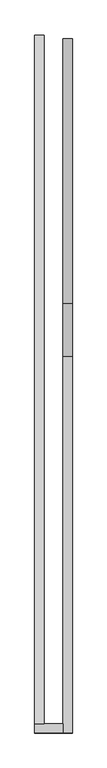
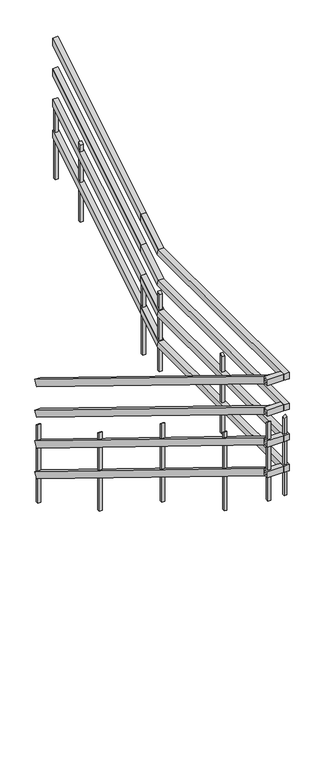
"""IFC4 building model written with IfcOpenShell, lengths in millimetres: railing geometry, RL780-금속재 난간."""

from ifc_helpers import new_model, si_unit, frame, origin, place, context, project, spatial, polyline, outline, extrude, faceted_brep, source, transform, mapped, element, save


def railing_dfcb49bc(model_context):
    return source(origin(), model_context, "Body", "SolidModel", [
        faceted_brep([(1249.8430136, 5234.2105263, 1973.6842105), (1299.8430136, 5234.2105263, 1973.6842105), (1299.8430136, 5202.7965544, 1922.5651107), (1249.8430136, 5202.7965544, 1922.5651107), (1249.8430136, 1560.0, 4231.5789474), (1249.8430136, 1528.586028, 4180.4598476), (1299.8430136, 1528.586028, 4180.4598476), (1299.8430136, 1560.0, 4231.5789474)], [[[0, 1, 2, 3]], [[4, 5, 6, 7]], [[1, 0, 4, 7]], [[2, 1, 7, 6]], [[3, 2, 6, 5]], [[0, 3, 5, 4]]]),
        faceted_brep([(1249.8430136, 1509.6, 4231.5789474), (1249.8430136, 1559.6, 4231.5789474), (1249.8430136, 1559.6, 4171.5789474), (1249.8430136, 1509.6, 4171.5789474), (1400.6430136, 1509.6, 4231.5789474), (1400.6430136, 1509.6, 4171.5789474), (1400.6430136, 1559.6, 4171.5789474), (1400.6430136, 1559.6, 4231.5789474)], [[[0, 1, 2, 3]], [[4, 5, 6, 7]], [[1, 0, 4, 7]], [[2, 1, 7, 6]], [[3, 2, 6, 5]], [[0, 3, 5, 4]]]),
        faceted_brep([(1450.6430136, 1509.6, 4231.5789474), (1400.6430136, 1509.6, 4231.5789474), (1400.6430136, 1509.6, 4171.5789474), (1450.6430136, 1509.6, 4171.5789474), (1450.6430136, 3517.3684211, 4231.5789474), (1400.6430136, 3517.3684211, 4231.5789474), (1400.6430136, 3534.3307463, 4171.5789474), (1450.6430136, 3800.0, 4405.2631579), (1450.6430136, 3800.0, 4334.8393826), (1400.6430136, 3800.0, 4334.8393826), (1400.6430136, 3800.0, 4405.2631579), (1450.6430136, 3534.3307463, 4171.5789474)], [[[0, 1, 2, 3]], [[1, 0, 4, 5]], [[2, 1, 5, 6]], [[7, 8, 9, 10]], [[5, 4, 7, 10]], [[6, 5, 10, 9]], [[3, 2, 6, 11]], [[0, 3, 11, 4]], [[11, 6, 9, 8]], [[4, 11, 8, 7]]]),
        faceted_brep([(1450.6430136, 3800.0, 4405.2631579), (1400.6430136, 3800.0, 4405.2631579), (1400.6430136, 3800.0, 4334.8393826), (1450.6430136, 3800.0, 4334.8393826), (1450.6430136, 5213.1578947, 5273.6842105), (1450.6430136, 5213.1578947, 5203.2604352), (1400.6430136, 5213.1578947, 5203.2604352), (1400.6430136, 5213.1578947, 5273.6842105)], [[[0, 1, 2, 3]], [[4, 5, 6, 7]], [[1, 0, 4, 7]], [[2, 1, 7, 6]], [[3, 2, 6, 5]], [[0, 3, 5, 4]]]),
        faceted_brep([(1249.8430136, 5234.2105263, 1673.6842105), (1299.8430136, 5234.2105263, 1673.6842105), (1299.8430136, 5202.7965544, 1622.5651107), (1249.8430136, 5202.7965544, 1622.5651107), (1249.8430136, 1560.0, 3931.5789474), (1249.8430136, 1528.586028, 3880.4598476), (1299.8430136, 1528.586028, 3880.4598476), (1299.8430136, 1560.0, 3931.5789474)], [[[0, 1, 2, 3]], [[4, 5, 6, 7]], [[1, 0, 4, 7]], [[2, 1, 7, 6]], [[3, 2, 6, 5]], [[0, 3, 5, 4]]]),
        faceted_brep([(1249.8430136, 1509.6, 3931.5789474), (1249.8430136, 1559.6, 3931.5789474), (1249.8430136, 1559.6, 3871.5789474), (1249.8430136, 1509.6, 3871.5789474), (1400.6430136, 1509.6, 3931.5789474), (1400.6430136, 1509.6, 3871.5789474), (1400.6430136, 1559.6, 3871.5789474), (1400.6430136, 1559.6, 3931.5789474)], [[[0, 1, 2, 3]], [[4, 5, 6, 7]], [[1, 0, 4, 7]], [[2, 1, 7, 6]], [[3, 2, 6, 5]], [[0, 3, 5, 4]]]),
        faceted_brep([(1450.6430136, 1509.6, 3931.5789474), (1400.6430136, 1509.6, 3931.5789474), (1400.6430136, 1509.6, 3871.5789474), (1450.6430136, 1509.6, 3871.5789474), (1450.6430136, 3517.3684211, 3931.5789474), (1400.6430136, 3517.3684211, 3931.5789474), (1400.6430136, 3534.3307463, 3871.5789474), (1450.6430136, 3800.0, 4105.2631579), (1450.6430136, 3800.0, 4034.8393826), (1400.6430136, 3800.0, 4034.8393826), (1400.6430136, 3800.0, 4105.2631579), (1450.6430136, 3534.3307463, 3871.5789474)], [[[0, 1, 2, 3]], [[1, 0, 4, 5]], [[2, 1, 5, 6]], [[7, 8, 9, 10]], [[5, 4, 7, 10]], [[6, 5, 10, 9]], [[3, 2, 6, 11]], [[0, 3, 11, 4]], [[11, 6, 9, 8]], [[4, 11, 8, 7]]]),
        faceted_brep([(1450.6430136, 3800.0, 4105.2631579), (1400.6430136, 3800.0, 4105.2631579), (1400.6430136, 3800.0, 4034.8393826), (1450.6430136, 3800.0, 4034.8393826), (1450.6430136, 5213.1578947, 4973.6842105), (1450.6430136, 5213.1578947, 4903.2604352), (1400.6430136, 5213.1578947, 4903.2604352), (1400.6430136, 5213.1578947, 4973.6842105)], [[[0, 1, 2, 3]], [[4, 5, 6, 7]], [[1, 0, 4, 7]], [[2, 1, 7, 6]], [[3, 2, 6, 5]], [[0, 3, 5, 4]]]),
        faceted_brep([(1249.8430136, 5234.2105263, 1373.6842105), (1299.8430136, 5234.2105263, 1373.6842105), (1299.8430136, 5202.7965544, 1322.5651107), (1249.8430136, 5202.7965544, 1322.5651107), (1249.8430136, 1560.0, 3631.5789474), (1249.8430136, 1528.586028, 3580.4598476), (1299.8430136, 1528.586028, 3580.4598476), (1299.8430136, 1560.0, 3631.5789474)], [[[0, 1, 2, 3]], [[4, 5, 6, 7]], [[1, 0, 4, 7]], [[2, 1, 7, 6]], [[3, 2, 6, 5]], [[0, 3, 5, 4]]]),
        faceted_brep([(1249.8430136, 1509.6, 3631.5789474), (1249.8430136, 1559.6, 3631.5789474), (1249.8430136, 1559.6, 3571.5789474), (1249.8430136, 1509.6, 3571.5789474), (1400.6430136, 1509.6, 3631.5789474), (1400.6430136, 1509.6, 3571.5789474), (1400.6430136, 1559.6, 3571.5789474), (1400.6430136, 1559.6, 3631.5789474)], [[[0, 1, 2, 3]], [[4, 5, 6, 7]], [[1, 0, 4, 7]], [[2, 1, 7, 6]], [[3, 2, 6, 5]], [[0, 3, 5, 4]]]),
        faceted_brep([(1450.6430136, 1509.6, 3631.5789474), (1400.6430136, 1509.6, 3631.5789474), (1400.6430136, 1509.6, 3571.5789474), (1450.6430136, 1509.6, 3571.5789474), (1450.6430136, 3517.3684211, 3631.5789474), (1400.6430136, 3517.3684211, 3631.5789474), (1400.6430136, 3534.3307463, 3571.5789474), (1450.6430136, 3800.0, 3805.2631579), (1450.6430136, 3800.0, 3734.8393826), (1400.6430136, 3800.0, 3734.8393826), (1400.6430136, 3800.0, 3805.2631579), (1450.6430136, 3534.3307463, 3571.5789474)], [[[0, 1, 2, 3]], [[1, 0, 4, 5]], [[2, 1, 5, 6]], [[7, 8, 9, 10]], [[5, 4, 7, 10]], [[6, 5, 10, 9]], [[3, 2, 6, 11]], [[0, 3, 11, 4]], [[11, 6, 9, 8]], [[4, 11, 8, 7]]]),
        faceted_brep([(1450.6430136, 3800.0, 3805.2631579), (1400.6430136, 3800.0, 3805.2631579), (1400.6430136, 3800.0, 3734.8393826), (1450.6430136, 3800.0, 3734.8393826), (1450.6430136, 5213.1578947, 4673.6842105), (1450.6430136, 5213.1578947, 4603.2604352), (1400.6430136, 5213.1578947, 4603.2604352), (1400.6430136, 5213.1578947, 4673.6842105)], [[[0, 1, 2, 3]], [[4, 5, 6, 7]], [[1, 0, 4, 7]], [[2, 1, 7, 6]], [[3, 2, 6, 5]], [[0, 3, 5, 4]]]),
        faceted_brep([(1249.8430136, 5234.2105263, 1073.6842105), (1299.8430136, 5234.2105263, 1073.6842105), (1299.8430136, 5202.7965544, 1022.5651107), (1249.8430136, 5202.7965544, 1022.5651107), (1249.8430136, 1560.0, 3331.5789474), (1249.8430136, 1528.586028, 3280.4598476), (1299.8430136, 1528.586028, 3280.4598476), (1299.8430136, 1560.0, 3331.5789474)], [[[0, 1, 2, 3]], [[4, 5, 6, 7]], [[1, 0, 4, 7]], [[2, 1, 7, 6]], [[3, 2, 6, 5]], [[0, 3, 5, 4]]]),
        faceted_brep([(1249.8430136, 1509.6, 3331.5789474), (1249.8430136, 1559.6, 3331.5789474), (1249.8430136, 1559.6, 3271.5789474), (1249.8430136, 1509.6, 3271.5789474), (1400.6430136, 1509.6, 3331.5789474), (1400.6430136, 1509.6, 3271.5789474), (1400.6430136, 1559.6, 3271.5789474), (1400.6430136, 1559.6, 3331.5789474)], [[[0, 1, 2, 3]], [[4, 5, 6, 7]], [[1, 0, 4, 7]], [[2, 1, 7, 6]], [[3, 2, 6, 5]], [[0, 3, 5, 4]]]),
        faceted_brep([(1450.6430136, 1509.6, 3331.5789474), (1400.6430136, 1509.6, 3331.5789474), (1400.6430136, 1509.6, 3271.5789474), (1450.6430136, 1509.6, 3271.5789474), (1450.6430136, 3517.3684211, 3331.5789474), (1400.6430136, 3517.3684211, 3331.5789474), (1400.6430136, 3534.3307463, 3271.5789474), (1450.6430136, 3800.0, 3505.2631579), (1450.6430136, 3800.0, 3434.8393826), (1400.6430136, 3800.0, 3434.8393826), (1400.6430136, 3800.0, 3505.2631579), (1450.6430136, 3534.3307463, 3271.5789474)], [[[0, 1, 2, 3]], [[1, 0, 4, 5]], [[2, 1, 5, 6]], [[7, 8, 9, 10]], [[5, 4, 7, 10]], [[6, 5, 10, 9]], [[3, 2, 6, 11]], [[0, 3, 11, 4]], [[11, 6, 9, 8]], [[4, 11, 8, 7]]]),
        faceted_brep([(1450.6430136, 3800.0, 3505.2631579), (1400.6430136, 3800.0, 3505.2631579), (1400.6430136, 3800.0, 3434.8393826), (1450.6430136, 3800.0, 3434.8393826), (1450.6430136, 5213.1578947, 4373.6842105), (1450.6430136, 5213.1578947, 4303.2604352), (1400.6430136, 5213.1578947, 4303.2604352), (1400.6430136, 5213.1578947, 4373.6842105)], [[[0, 1, 2, 3]], [[4, 5, 6, 7]], [[1, 0, 4, 7]], [[2, 1, 7, 6]], [[3, 2, 6, 5]], [[0, 3, 5, 4]]]),
        extrude(outline(polyline([(4812.5, 4496.2699695), (4812.5, 3726.3157895), (4787.5, 3726.3157895), (4787.5, 4480.3616095), (4812.5, 4496.2699695)])), frame((1413.1430136, 0.0, 0.0), z_axis=(1.0, 0.0, 0.0), x_axis=(0.0, 1.0, 0.0)), (0.0, 0.0, 1.0), 25.0),
        extrude(outline(polyline([(3547.1, 3801.5331274), (3547.1, 3031.5789474), (3522.1, 3031.5789474), (3522.1, 3785.6247674), (3547.1, 3801.5331274)])), frame((1413.1430136, 0.0, 0.0), z_axis=(1.0, 0.0, 0.0), x_axis=(0.0, 1.0, 0.0)), (0.0, 0.0, 1.0), 25.0),
        extrude(outline(polyline([(2547.1, 3801.5331274), (2547.1, 3031.5789474), (2522.1, 3031.5789474), (2522.1, 3785.6247674), (2547.1, 3801.5331274)])), frame((1413.1430136, 0.0, 0.0), z_axis=(1.0, 0.0, 0.0), x_axis=(0.0, 1.0, 0.0)), (0.0, 0.0, 1.0), 25.0),
        extrude(outline(polyline([(2246.7105263, 3264.5721358), (2246.7105263, 2510.5263158), (2221.7105263, 2510.5263158), (2221.7105263, 3280.4804958), (2246.7105263, 3264.5721358)])), frame((1262.3430136, 0.0, 0.0), z_axis=(1.0, 0.0, 0.0), x_axis=(0.0, 1.0, 0.0)), (0.0, 0.0, 1.0), 25.0),
        extrude(outline(polyline([(3246.7105263, 2743.5195042), (3246.7105263, 1989.4736842), (3221.7105263, 1989.4736842), (3221.7105263, 2759.4278642), (3246.7105263, 2743.5195042)])), frame((1262.3430136, 0.0, 0.0), z_axis=(1.0, 0.0, 0.0), x_axis=(0.0, 1.0, 0.0)), (0.0, 0.0, 1.0), 25.0),
        extrude(outline(polyline([(4246.7105263, 2048.7826621), (4246.7105263, 1294.7368421), (4221.7105263, 1294.7368421), (4221.7105263, 2064.6910221), (4246.7105263, 2048.7826621)])), frame((1262.3430136, 0.0, 0.0), z_axis=(1.0, 0.0, 0.0), x_axis=(0.0, 1.0, 0.0)), (0.0, 0.0, 1.0), 25.0),
        extrude(outline(polyline([(3812.5, 3801.5331274), (3812.5, 3031.5789474), (3787.5, 3031.5789474), (3787.5, 3785.6247674), (3812.5, 3801.5331274)])), frame((1413.1430136, 0.0, 0.0), z_axis=(1.0, 0.0, 0.0), x_axis=(0.0, 1.0, 0.0)), (0.0, 0.0, 1.0), 25.0),
        extrude(outline(polyline([(3785.6247674, 1413.1430136), (3031.5789474, 1413.1430136), (3031.5789474, 1438.1430136), (3801.5331274, 1438.1430136), (3785.6247674, 1413.1430136)])), frame((0.0, 1522.1, 0.0), z_axis=(0.0, 1.0, 0.0), x_axis=(0.0, 0.0, 1.0)), (0.0, 0.0, 1.0), 25.0),
        extrude(outline(polyline([(1547.1, 3785.6247674), (1547.1, 3031.5789474), (1522.1, 3031.5789474), (1522.1, 3801.5331274), (1547.1, 3785.6247674)])), frame((1262.3430136, 0.0, 0.0), z_axis=(1.0, 0.0, 0.0), x_axis=(0.0, 1.0, 0.0)), (0.0, 0.0, 1.0), 25.0),
        extrude(outline(polyline([(5213.1578947, 4669.95418), (5213.1578947, 3900.0), (5188.1578947, 3900.0), (5188.1578947, 4654.04582), (5213.1578947, 4669.95418)])), frame((1413.1430136, 0.0, 0.0), z_axis=(1.0, 0.0, 0.0), x_axis=(0.0, 1.0, 0.0)), (0.0, 0.0, 1.0), 25.0),
        extrude(outline(polyline([(5234.2105263, 1527.7300305), (5234.2105263, 773.6842105), (5209.2105263, 773.6842105), (5209.2105263, 1543.6383905), (5234.2105263, 1527.7300305)])), frame((1262.3430136, 0.0, 0.0), z_axis=(1.0, 0.0, 0.0), x_axis=(0.0, 1.0, 0.0)), (0.0, 0.0, 1.0), 25.0),
    ])


if __name__ == "__main__":
    model = new_model("IFC4")
    model_context = context("Model", 3, world=origin())
    ifc_project = project(units=[si_unit("LENGTHUNIT", "METRE", prefix="MILLI")], contexts=[model_context])
    site = spatial("IfcSite", under=ifc_project)
    building = spatial("IfcBuilding", under=site)
    placement = place(None, origin())
    railing_shape = railing_dfcb49bc(model_context)
    element("IfcRailing", 1, ObjectType="RL780-금속재 난간", at=placement, inside=building, context=model_context, shape_type="MappedRepresentation", body=[
        mapped(railing_shape, transform((0.0, 0.0, 0.0), x_axis=(1.0, 0.0, 0.0), y_axis=(0.0, 1.0, 0.0), z_axis=(0.0, 0.0, 1.0))),
    ])
    save(model, "model.ifc")
